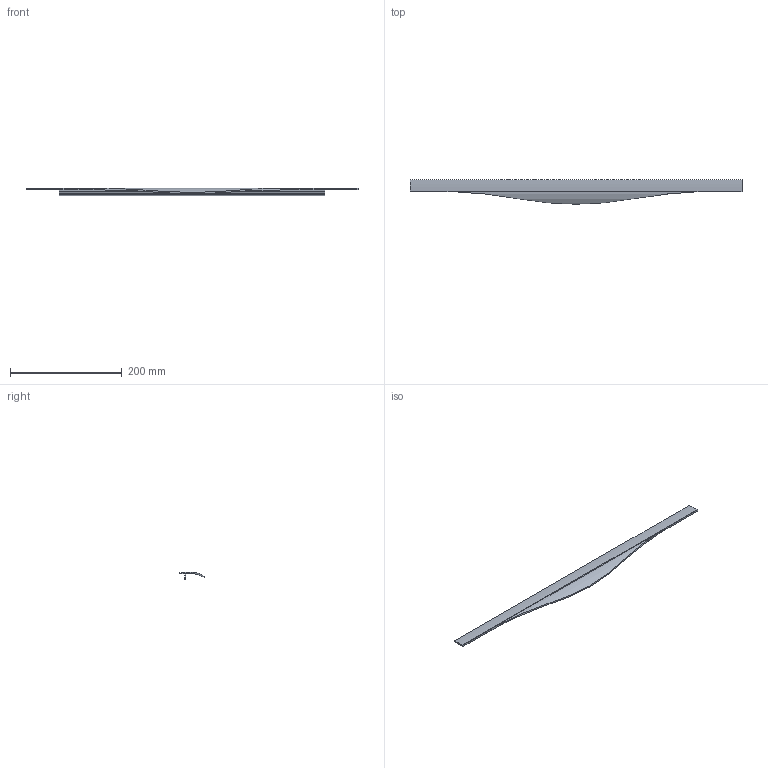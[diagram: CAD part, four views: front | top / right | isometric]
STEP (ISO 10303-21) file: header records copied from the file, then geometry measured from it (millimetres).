
FILE_DESCRIPTION( ( 'STEP AP214' ), '1' );
FILE_NAME( 'C:/Users/swati/Desktop/04-03-2016/9210059/9210059.stp', ' ', ( ' ' ), ( ' ' ), 'PSStep 15.0.47', 'PARTsolutions', ' ' );
FILE_SCHEMA( ( 'AUTOMOTIVE_DESIGN { 1 0 10303 214 1 1 1 1 }' ) );
Length unit declared in the file: millimetre
Products named in the file (2): 95 ; _
Assembly tree (1 placements, depth 2):
  95 
    _
Bounding box: 595 x 43.67 x 14 mm (x, y, z)
Volume: 56947.6 mm3; surface area: 51577.1 mm2
Topology: 1 solids, 1 shells, 32 faces, 87 edges, 58 vertices
Faces by surface type: plane 25, cylinder 7
Entity records: 1353 total; most frequent: CARTESIAN_POINT 257, ORIENTED_EDGE 174, DIRECTION 153, EDGE_CURVE 87, LINE 73, VECTOR 73, VERTEX_POINT 58, AXIS2_PLACEMENT_3D 40
